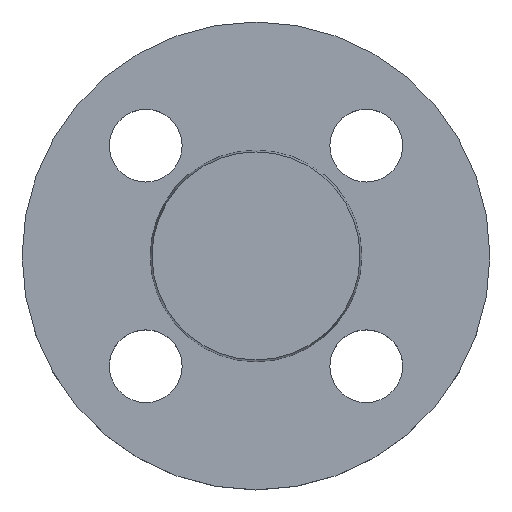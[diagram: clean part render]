
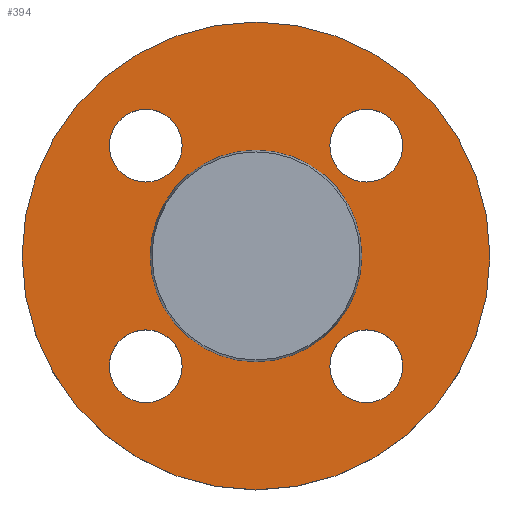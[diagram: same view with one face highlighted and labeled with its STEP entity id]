
A CAD part, top view. The second image highlights one B-rep face of the part: STEP entity #394.
In plain terms, the highlighted planar face has unit normal (0, 0, 1).
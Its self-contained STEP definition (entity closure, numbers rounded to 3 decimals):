
#2 = AXIS2_PLACEMENT_3D ( 'NONE', #408, #409, #410 ) ;
#9 = CIRCLE ( 'NONE', #69, 7. ) ;
#11 = CIRCLE ( 'NONE', #18, 7. ) ;
#12 = CIRCLE ( 'NONE', #88, 45. ) ;
#15 = CIRCLE ( 'NONE', #19, 45. ) ;
#16 = EDGE_CURVE ( 'NONE', #278, #273, #78, .T. ) ;
#18 = AXIS2_PLACEMENT_3D ( 'NONE', #494, #495, #496 ) ;
#19 = AXIS2_PLACEMENT_3D ( 'NONE', #503, #182, #505 ) ;
#20 = AXIS2_PLACEMENT_3D ( 'NONE', #513, #514, #515 ) ;
#21 = CIRCLE ( 'NONE', #2, 7. ) ;
#29 = EDGE_CURVE ( 'NONE', #273, #278, #65, .T. ) ;
#33 = AXIS2_PLACEMENT_3D ( 'NONE', #417, #418, #419 ) ;
#39 = CIRCLE ( 'NONE', #46, 7. ) ;
#46 = AXIS2_PLACEMENT_3D ( 'NONE', #464, #465, #466 ) ;
#55 = AXIS2_PLACEMENT_3D ( 'NONE', #320, #321, #323 ) ;
#59 = AXIS2_PLACEMENT_3D ( 'NONE', #441, #442, #443 ) ;
#65 = CIRCLE ( 'NONE', #55, 7. ) ;
#67 = CIRCLE ( 'NONE', #128, 20.353 ) ;
#69 = AXIS2_PLACEMENT_3D ( 'NONE', #374, #375, #376 ) ;
#74 = AXIS2_PLACEMENT_3D ( 'NONE', #309, #310, #311 ) ;
#78 = CIRCLE ( 'NONE', #74, 7. ) ;
#88 = AXIS2_PLACEMENT_3D ( 'NONE', #114, #98, #99 ) ;
#89 = EDGE_CURVE ( 'NONE', #202, #281, #9, .T. ) ;
#94 = CIRCLE ( 'NONE', #33, 7. ) ;
#97 = EDGE_CURVE ( 'NONE', #153, #286, #67, .T. ) ;
#98 = DIRECTION ( 'NONE',  ( 0., 0., -1. ) ) ;
#99 = DIRECTION ( 'NONE',  ( -1., 0., 0. ) ) ;
#101 = CIRCLE ( 'NONE', #112, 20.353 ) ;
#112 = AXIS2_PLACEMENT_3D ( 'NONE', #398, #399, #400 ) ;
#114 = CARTESIAN_POINT ( 'NONE',  ( 0., 0., -2. ) ) ;
#118 = EDGE_CURVE ( 'NONE', #286, #153, #101, .T. ) ;
#124 = CIRCLE ( 'NONE', #59, 7. ) ;
#128 = AXIS2_PLACEMENT_3D ( 'NONE', #377, #378, #379 ) ;
#137 = EDGE_CURVE ( 'NONE', #274, #170, #21, .T. ) ;
#150 = EDGE_CURVE ( 'NONE', #159, #287, #94, .T. ) ;
#153 = VERTEX_POINT ( 'NONE', #423 ) ;
#155 = EDGE_LOOP ( 'NONE', ( #227, #228 ) ) ;
#157 = EDGE_LOOP ( 'NONE', ( #217, #219 ) ) ;
#159 = VERTEX_POINT ( 'NONE', #424 ) ;
#161 = EDGE_LOOP ( 'NONE', ( #232, #233 ) ) ;
#163 = EDGE_LOOP ( 'NONE', ( #229, #230 ) ) ;
#167 = EDGE_LOOP ( 'NONE', ( #225, #226 ) ) ;
#169 = EDGE_LOOP ( 'NONE', ( #220, #222 ) ) ;
#170 = VERTEX_POINT ( 'NONE', #432 ) ;
#173 = VERTEX_POINT ( 'NONE', #433 ) ;
#182 = DIRECTION ( 'NONE',  ( 0., 0., -1. ) ) ;
#183 = EDGE_CURVE ( 'NONE', #287, #159, #124, .T. ) ;
#202 = VERTEX_POINT ( 'NONE', #457 ) ;
#217 = ORIENTED_EDGE ( 'NONE', *, *, #89, .T. ) ;
#219 = ORIENTED_EDGE ( 'NONE', *, *, #303, .T. ) ;
#220 = ORIENTED_EDGE ( 'NONE', *, *, #231, .T. ) ;
#222 = ORIENTED_EDGE ( 'NONE', *, *, #137, .T. ) ;
#225 = ORIENTED_EDGE ( 'NONE', *, *, #183, .T. ) ;
#226 = ORIENTED_EDGE ( 'NONE', *, *, #150, .T. ) ;
#227 = ORIENTED_EDGE ( 'NONE', *, *, #29, .T. ) ;
#228 = ORIENTED_EDGE ( 'NONE', *, *, #16, .T. ) ;
#229 = ORIENTED_EDGE ( 'NONE', *, *, #97, .T. ) ;
#230 = ORIENTED_EDGE ( 'NONE', *, *, #118, .T. ) ;
#231 = EDGE_CURVE ( 'NONE', #170, #274, #39, .T. ) ;
#232 = ORIENTED_EDGE ( 'NONE', *, *, #346, .F. ) ;
#233 = ORIENTED_EDGE ( 'NONE', *, *, #504, .F. ) ;
#265 = VERTEX_POINT ( 'NONE', #467 ) ;
#273 = VERTEX_POINT ( 'NONE', #475 ) ;
#274 = VERTEX_POINT ( 'NONE', #476 ) ;
#278 = VERTEX_POINT ( 'NONE', #479 ) ;
#281 = VERTEX_POINT ( 'NONE', #484 ) ;
#286 = VERTEX_POINT ( 'NONE', #487 ) ;
#287 = VERTEX_POINT ( 'NONE', #488 ) ;
#303 = EDGE_CURVE ( 'NONE', #281, #202, #11, .T. ) ;
#309 = CARTESIAN_POINT ( 'NONE',  ( 21.213, 21.213, -2. ) ) ;
#310 = DIRECTION ( 'NONE',  ( 0., 0., -1. ) ) ;
#311 = DIRECTION ( 'NONE',  ( 1., 0., 0. ) ) ;
#320 = CARTESIAN_POINT ( 'NONE',  ( 21.213, 21.213, -2. ) ) ;
#321 = DIRECTION ( 'NONE',  ( 0., 0., -1. ) ) ;
#323 = DIRECTION ( 'NONE',  ( 1., 0., 0. ) ) ;
#346 = EDGE_CURVE ( 'NONE', #173, #265, #15, .T. ) ;
#374 = CARTESIAN_POINT ( 'NONE',  ( 21.213, -21.213, -2. ) ) ;
#375 = DIRECTION ( 'NONE',  ( 0., 0., -1. ) ) ;
#376 = DIRECTION ( 'NONE',  ( 1., 0., 0. ) ) ;
#377 = CARTESIAN_POINT ( 'NONE',  ( 0., 0., -2. ) ) ;
#378 = DIRECTION ( 'NONE',  ( 0., 0., -1. ) ) ;
#379 = DIRECTION ( 'NONE',  ( -1., 0., 0. ) ) ;
#394 = ADVANCED_FACE ( 'NONE', ( #506, #507, #508, #509, #510, #511 ), #512, .T. ) ;
#398 = CARTESIAN_POINT ( 'NONE',  ( 0., 0., -2. ) ) ;
#399 = DIRECTION ( 'NONE',  ( 0., 0., -1. ) ) ;
#400 = DIRECTION ( 'NONE',  ( -1., 0., 0. ) ) ;
#408 = CARTESIAN_POINT ( 'NONE',  ( -21.213, -21.213, -2. ) ) ;
#409 = DIRECTION ( 'NONE',  ( 0., 0., -1. ) ) ;
#410 = DIRECTION ( 'NONE',  ( 1., 0., 0. ) ) ;
#417 = CARTESIAN_POINT ( 'NONE',  ( -21.213, 21.213, -2. ) ) ;
#418 = DIRECTION ( 'NONE',  ( 0., 0., -1. ) ) ;
#419 = DIRECTION ( 'NONE',  ( 1., 0., 0. ) ) ;
#423 = CARTESIAN_POINT ( 'NONE',  ( -20.353, 0., -2. ) ) ;
#424 = CARTESIAN_POINT ( 'NONE',  ( -28.213, 21.213, -2. ) ) ;
#432 = CARTESIAN_POINT ( 'NONE',  ( -14.213, -21.213, -2. ) ) ;
#433 = CARTESIAN_POINT ( 'NONE',  ( 45., 0., -2. ) ) ;
#441 = CARTESIAN_POINT ( 'NONE',  ( -21.213, 21.213, -2. ) ) ;
#442 = DIRECTION ( 'NONE',  ( 0., 0., -1. ) ) ;
#443 = DIRECTION ( 'NONE',  ( 1., 0., 0. ) ) ;
#457 = CARTESIAN_POINT ( 'NONE',  ( 28.213, -21.213, -2. ) ) ;
#464 = CARTESIAN_POINT ( 'NONE',  ( -21.213, -21.213, -2. ) ) ;
#465 = DIRECTION ( 'NONE',  ( 0., 0., -1. ) ) ;
#466 = DIRECTION ( 'NONE',  ( 1., 0., 0. ) ) ;
#467 = CARTESIAN_POINT ( 'NONE',  ( -45., 0., -2. ) ) ;
#475 = CARTESIAN_POINT ( 'NONE',  ( 28.213, 21.213, -2. ) ) ;
#476 = CARTESIAN_POINT ( 'NONE',  ( -28.213, -21.213, -2. ) ) ;
#479 = CARTESIAN_POINT ( 'NONE',  ( 14.213, 21.213, -2. ) ) ;
#484 = CARTESIAN_POINT ( 'NONE',  ( 14.213, -21.213, -2. ) ) ;
#487 = CARTESIAN_POINT ( 'NONE',  ( 20.353, 0., -2. ) ) ;
#488 = CARTESIAN_POINT ( 'NONE',  ( -14.213, 21.213, -2. ) ) ;
#494 = CARTESIAN_POINT ( 'NONE',  ( 21.213, -21.213, -2. ) ) ;
#495 = DIRECTION ( 'NONE',  ( 0., 0., -1. ) ) ;
#496 = DIRECTION ( 'NONE',  ( 1., 0., 0. ) ) ;
#503 = CARTESIAN_POINT ( 'NONE',  ( 0., 0., -2. ) ) ;
#504 = EDGE_CURVE ( 'NONE', #265, #173, #12, .T. ) ;
#505 = DIRECTION ( 'NONE',  ( -1., 0., 0. ) ) ;
#506 = FACE_BOUND ( 'NONE', #157, .T. ) ;
#507 = FACE_BOUND ( 'NONE', #169, .T. ) ;
#508 = FACE_BOUND ( 'NONE', #167, .T. ) ;
#509 = FACE_BOUND ( 'NONE', #155, .T. ) ;
#510 = FACE_BOUND ( 'NONE', #163, .T. ) ;
#511 = FACE_OUTER_BOUND ( 'NONE', #161, .T. ) ;
#512 = PLANE ( 'NONE',  #20 ) ;
#513 = CARTESIAN_POINT ( 'NONE',  ( 20.353, 0., -2. ) ) ;
#514 = DIRECTION ( 'NONE',  ( 0., 0., 1. ) ) ;
#515 = DIRECTION ( 'NONE',  ( 1., 0., 0. ) ) ;
